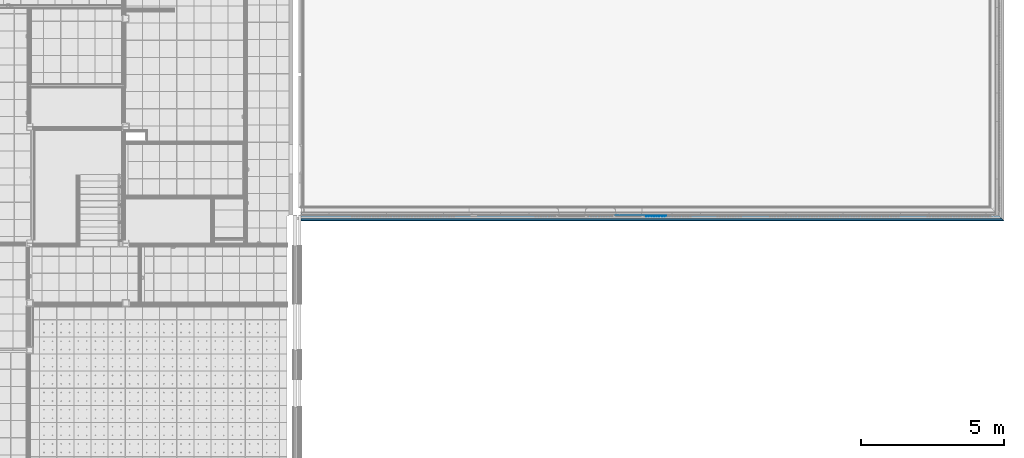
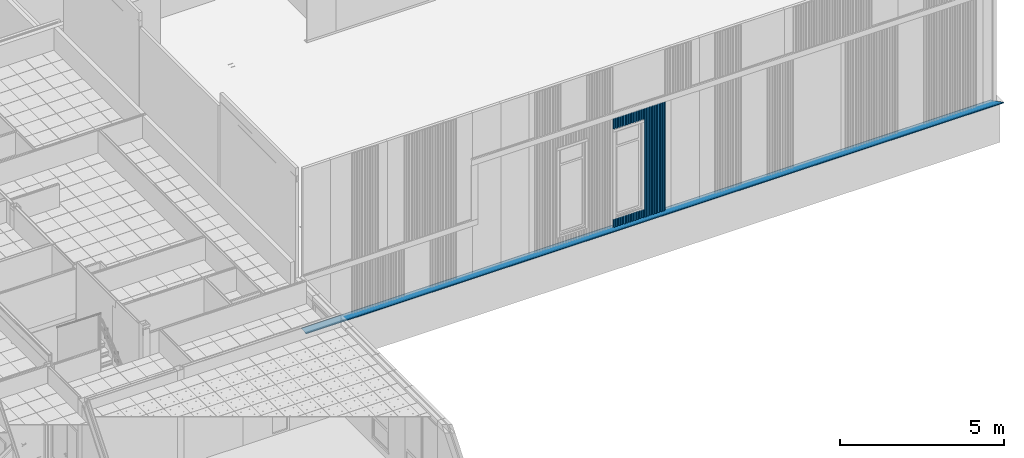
# One storey, part 92 of 338: 6 building element parts, 3 elements without a shape of their own.
"""IFC2X3 building model written with IfcOpenShell, lengths in millimetres."""

from ifc_helpers import new_model, entity, si_unit, converted_unit, derived_unit, money_unit, direction, frame, origin_with_axes, place, context, subcontext, project, spatial, faceted_brep, material, type_object, element, aggregate, save


model = new_model("IFC2X3")

# Units and contexts
model_context = context("Model", 3, precision=0.01, world=origin_with_axes(), true_north=direction((0.0, 1.0)))
plan_context = context("Plan", 3, precision=0.01, world=origin_with_axes(), true_north=direction((0.0, 1.0)))
body_context = subcontext(model_context, "Body", "Model", "MODEL_VIEW")
ifc_project = project(units=[si_unit("LENGTHUNIT", "METRE", prefix="MILLI"), si_unit("AREAUNIT", "SQUARE_METRE"), si_unit("VOLUMEUNIT", "CUBIC_METRE"), converted_unit("PLANEANGLEUNIT", "DEGREE", entity("IfcPlaneAngleMeasure", 0.0174532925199), si_unit("PLANEANGLEUNIT", "RADIAN"), dimensions=[0, 0, 0, 0, 0, 0, 0]), money_unit("EUR"), converted_unit("TIMEUNIT", "Year", entity("IfcTimeMeasure", 31556926.0), si_unit("TIMEUNIT", "SECOND"), dimensions=[0, 0, 1, 0, 0, 0, 0]), si_unit("MASSUNIT", "GRAM", prefix="KILO"), si_unit("THERMODYNAMICTEMPERATUREUNIT", "DEGREE_CELSIUS"), si_unit("LUMINOUSINTENSITYUNIT", "LUMEN"), si_unit("ENERGYUNIT", "JOULE", prefix="MEGA"), derived_unit("THERMALCONDUCTANCEUNIT", [(si_unit("POWERUNIT", "WATT"), 1), (si_unit("LENGTHUNIT", "METRE"), -1), (si_unit("THERMODYNAMICTEMPERATUREUNIT", "KELVIN"), -1)]), derived_unit("SPECIFICHEATCAPACITYUNIT", [(si_unit("ENERGYUNIT", "JOULE"), 1), (si_unit("MASSUNIT", "GRAM", prefix="KILO"), -1), (si_unit("THERMODYNAMICTEMPERATUREUNIT", "KELVIN"), -1)]), derived_unit("MASSDENSITYUNIT", [(si_unit("MASSUNIT", "GRAM", prefix="KILO"), 1), (si_unit("VOLUMEUNIT", "CUBIC_METRE"), -1)])], contexts=[model_context, plan_context])

# Site, building, storey
site_placement = place(None, origin_with_axes())
site = spatial("IfcSite", under=ifc_project, at=site_placement, Name="Fortuinstraat Woensdrecht", CompositionType="ELEMENT")
building_placement = place(site_placement, origin_with_axes())
building = spatial("IfcBuilding", under=site, at=building_placement, Name="IKC Fortuna", CompositionType="ELEMENT")
storey_placement = place(building_placement, origin_with_axes())
storey = spatial("IfcBuildingStorey", under=building, at=storey_placement, Name="00 begane grond", CompositionType="ELEMENT", Elevation=0.0)

# Beam, building element parts
beam_type = type_object("IfcBeamType", Name="41 Waterslag SW - MW 290 x 65", PredefinedType="BEAM")
beam_placement = place(storey_placement, frame((35113.4270571, 20996.2966283, 1018.9295501), z_axis=(0.0, 0.0, 1.0), x_axis=(0.0, -1.0, 0.0)))
beam = element("IfcBeam", 1, at=beam_placement, inside=storey, type_object=beam_type, Name="28_Balk_UNP203", ObjectType="BEAM")
ifc_material = material(Name="Metaal - Aluminium")
building_element_part_1_placement = place(beam_placement, origin_with_axes())
building_element_part_1 = element("IfcBuildingElementPart", 2, at=building_element_part_1_placement, material=ifc_material, Name="Metaal - Aluminium", context=body_context, shape_type="Brep", body=[
    faceted_brep([(269.997199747, 0.0, -65.0443041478), (289.997195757, 0.0, -65.0514212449), (290.001988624, 0.0, -38.1142266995), (0.996409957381, 0.0, -20.1802948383), (0.99999998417, 0.0, -0.0033806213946), (2.18811635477e-08, 0.0, -0.00320269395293), (2.18811635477e-08, 0.0, -21.1203871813), (289.001821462, 0.0, -39.0540858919), (288.997373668, 0.0, -64.0514212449), (269.997377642, 0.0, -64.0444820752), (269.997199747, 24589.9971998, -65.0443041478), (289.997195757, 24609.9971958, -65.0514212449), (290.001988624, 24610.0019887, -38.1142266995), (0.996409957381, 24320.99641, -20.1802948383), (0.999999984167, 24321.0, -0.0033806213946), (2.21973550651e-08, 24320.0000001, -0.00320269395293), (2.21973550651e-08, 24140.0000001, -0.00320269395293), (3.01980662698e-10, 23216.9707392, -0.00320269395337), (3.01980662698e-10, 23134.9310915, -0.00320269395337), (2.214406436e-08, 18260.0000001, -0.00320269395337), (2.21405116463e-08, 18080.0000001, -0.00320269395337), (2.20872209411e-08, 12110.0000001, -0.00320269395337), (2.20872209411e-08, 11930.0000001, -0.00320269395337), (2.18776108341e-08, 11010.0000001, -0.00320269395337), (2.18776108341e-08, 10950.0000001, -0.00320269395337), (2.1866952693e-08, 10005.0000001, -0.00320269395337), (2.1866952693e-08, 9945.00000006, -0.00320269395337), (2.18598472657e-08, 9025.03439854, -0.00320269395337), (2.18598472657e-08, 8965.03439854, -0.00320269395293), (2.19344542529e-08, 5960.00000006, -0.00320269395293), (2.19344542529e-08, 5780.00000006, -0.00320269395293), (2.18811635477e-08, 66.0000000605, -0.00320269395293), (2.18811635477e-08, 66.0000000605, -21.1203871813), (-0.00375728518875, 5780.00000006, -21.1201540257), (2.19344542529e-08, 5960.00000006, -21.1203871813), (-0.00375728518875, 8965.03439854, -21.1201540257), (2.18598472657e-08, 9025.03439854, -21.1203871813), (-0.00375728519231, 9945.00000006, -21.1201540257), (2.1866952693e-08, 10005.0000001, -21.1203871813), (-0.00375728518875, 10950.0000001, -21.1201540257), (2.18776108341e-08, 11010.0000001, -21.1203871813), (-0.00375728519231, 11930.0000001, -21.1201540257), (2.20872209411e-08, 12110.0000001, -21.1203871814), (-0.00375728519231, 18080.0000001, -21.1201540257), (2.214406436e-08, 18260.0000001, -21.1203871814), (-0.00375728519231, 23154.6229672, -21.1201540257), (-0.00375728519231, 23236.6626149, -21.1201540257), (2.21973550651e-08, 24140.0000001, -21.1203871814), (2.21973550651e-08, 24320.0000001, -21.12038718), (289.001821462, 24609.0018215, -39.0540858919), (288.997373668, 24608.9973737, -64.0514212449), (269.997377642, 24589.9973777, -64.0444820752)], [[[0, 1, 2, 3, 4, 5, 6, 7, 8, 9]], [[1, 0, 10, 11]], [[2, 1, 11, 12]], [[3, 2, 12, 13]], [[4, 3, 13, 14]], [[5, 4, 14, 15, 16, 17, 18, 19, 20, 21, 22, 23, 24, 25, 26, 27, 28, 29, 30, 31]], [[32, 6, 5, 31]], [[7, 6, 32, 33, 34, 35, 36, 37, 38, 39, 40, 41, 42, 43, 44, 45, 46, 47, 48, 49]], [[8, 7, 49, 50]], [[9, 8, 50, 51]], [[0, 9, 51, 10]], [[11, 10, 51, 50, 49, 48, 15, 14, 13, 12]], [[47, 16, 15, 48]], [[17, 16, 47, 46]], [[18, 17, 46, 45]], [[19, 18, 45, 44]], [[20, 19, 44, 43]], [[21, 20, 43, 42]], [[22, 21, 42, 41]], [[23, 22, 41, 40]], [[23, 40, 39, 24]], [[25, 24, 39, 38]], [[26, 25, 38, 37]], [[36, 27, 26, 37]], [[27, 36, 35, 28]], [[34, 29, 28, 35]], [[29, 34, 33, 30]], [[32, 31, 30, 33]]]),
])
building_element_part_2_placement = place(beam_placement, origin_with_axes())
building_element_part_2 = element("IfcBuildingElementPart", 3, at=building_element_part_2_placement, material=ifc_material, Name="Metaal - Aluminium", context=body_context, shape_type="Brep", body=[
    faceted_brep([(287.870165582, 24607.8701656, -62.1067923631), (260.294323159, 24580.2943232, -43.989324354), (260.294323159, 0.0, -43.989324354), (287.870165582, 0.0, -62.1067923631), (287.321068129, 24607.3210682, -62.942550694), (259.995211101, 24579.9952112, -44.989324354), (209.995211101, 24529.9952112, -44.989324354), (209.995211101, 24529.9952112, -43.989324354), (209.995211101, 0.0, -43.989324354), (209.995211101, 0.0, -44.989324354), (259.995211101, 0.0, -44.989324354), (287.321068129, 0.0, -62.942550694)], [[[0, 1, 2, 3]], [[0, 4, 5, 6, 7, 1]], [[1, 7, 8, 2]], [[3, 2, 8, 9, 10, 11]], [[4, 0, 3, 11]], [[5, 4, 11, 10]], [[6, 5, 10, 9]], [[7, 6, 9, 8]]]),
])
aggregate(beam, [building_element_part_1, building_element_part_2])

# Proxy, building element parts
building_element_proxy_type = type_object("IfcBuildingElementProxyType", Name="21 Sandwich custom pyramid 946 x 37", PredefinedType="NOTDEFINED")
proxy_1_placement = place(storey_placement, frame((47894.9270571, 20896.2966283, 1000.0), z_axis=(0.0, 0.0, 1.0), x_axis=(-1.0, 0.0, 0.0)))
proxy_1 = element("IfcBuildingElementProxy", 4, at=proxy_1_placement, inside=storey, type_object=building_element_proxy_type, Name="41_Generieke bekleding & afwerking buiten_sandwich custom pyramid")
building_element_part_3_placement = place(proxy_1_placement, origin_with_axes())
building_element_part_3 = element("IfcBuildingElementPart", 5, at=building_element_part_3_placement, material=ifc_material, Name="Metaal - Aluminium", context=body_context, shape_type="Brep", body=[
    faceted_brep([(0.0, 2.39999686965, 0.0), (0.0, 1.20000548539, 0.0), (0.0, 1.20000548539, 4060.85690076), (0.0, 2.39999686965, 4060.85690076), (16.7470988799, 2.39999686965, 0.0), (52.0000026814, 36.6736482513, 0.0), (88.487191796, 1.20000548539, 0.0), (107.51282048, 1.20000548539, 0.0), (143.999995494, 36.6736482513, 0.0), (180.487184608, 1.20000548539, 0.0), (199.512813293, 1.20000548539, 0.0), (236.000002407, 36.6736482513, 0.0), (272.487191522, 1.20000548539, 0.0), (291.512820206, 1.20000548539, 0.0), (327.99999522, 36.6736482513, 0.0), (364.487184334, 1.20000548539, 0.0), (383.512813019, 1.20000548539, 0.0), (420.000002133, 36.6736482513, 0.0), (456.487191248, 1.20000548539, 0.0), (460.000006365, 1.20000548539, 0.0), (477.23428491, 1.20000548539, 0.0), (485.472879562, 9.20975302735, 0.0), (486.309372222, 8.34935896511, 0.0), (477.721464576, 0.0, 0.0), (455.999997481, 0.0, 0.0), (420.000002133, 35.0000001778, 0.0), (384.000006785, 0.0, 0.0), (364.000004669, 0.0, 0.0), (327.99999522, 35.0000001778, 0.0), (291.999999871, 0.0, 0.0), (271.999997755, 0.0, 0.0), (236.000002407, 35.0000001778, 0.0), (199.999992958, 0.0, 0.0), (180.000004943, 0.0, 0.0), (143.999995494, 35.0000001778, 0.0), (108.000000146, 0.0, 0.0), (87.9999980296, 0.0, 0.0), (52.0000026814, 35.0000001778, 0.0), (17.2342926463, 1.20000548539, 0.0), (17.2342926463, 1.20000548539, 4060.85690076), (52.0000026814, 35.0000001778, 4060.85690076), (87.9999980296, 0.0, 4060.85690076), (108.000000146, 0.0, 4060.85690076), (143.999995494, 35.0000001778, 4060.85690076), (180.000004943, 0.0, 4060.85690076), (199.999992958, 0.0, 4060.85690076), (236.000002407, 35.0000001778, 4060.85690076), (271.999997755, 0.0, 4060.85690076), (291.999999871, 0.0, 4060.85690076), (327.99999522, 35.0000001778, 4060.85690076), (364.000004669, 0.0, 4060.85690076), (384.000006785, 0.0, 4060.85690076), (420.000002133, 35.0000001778, 4060.85690076), (455.999997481, 0.0, 4060.85690076), (477.721464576, 0.0, 4060.85690076), (486.309372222, 8.34935896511, 4060.85690076), (485.472879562, 9.20975302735, 4060.85690076), (477.23428491, 1.20000548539, 4060.85690076), (460.000006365, 1.20000548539, 4060.85690076), (456.487191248, 1.20000548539, 4060.85690076), (420.000002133, 36.6736482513, 4060.85690076), (383.512813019, 1.20000548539, 4060.85690076), (364.487184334, 1.20000548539, 4060.85690076), (327.99999522, 36.6736482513, 4060.85690076), (291.512820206, 1.20000548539, 4060.85690076), (272.487191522, 1.20000548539, 4060.85690076), (236.000002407, 36.6736482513, 4060.85690076), (199.512813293, 1.20000548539, 4060.85690076), (180.487184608, 1.20000548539, 4060.85690076), (143.999995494, 36.6736482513, 4060.85690076), (107.51282048, 1.20000548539, 4060.85690076), (88.487191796, 1.20000548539, 4060.85690076), (52.0000026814, 36.6736482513, 4060.85690076), (16.7470988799, 2.39999686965, 4060.85690076)], [[[0, 1, 2, 3]], [[0, 4, 5, 6, 7, 8, 9, 10, 11, 12, 13, 14, 15, 16, 17, 18, 19, 20, 21, 22, 23, 24, 25, 26, 27, 28, 29, 30, 31, 32, 33, 34, 35, 36, 37, 38, 1]], [[1, 38, 39, 2]], [[3, 2, 39, 40, 41, 42, 43, 44, 45, 46, 47, 48, 49, 50, 51, 52, 53, 54, 55, 56, 57, 58, 59, 60, 61, 62, 63, 64, 65, 66, 67, 68, 69, 70, 71, 72, 73]], [[4, 0, 3, 73]], [[5, 4, 73, 72]], [[6, 5, 72, 71]], [[7, 6, 71, 70]], [[8, 7, 70, 69]], [[9, 8, 69, 68]], [[10, 9, 68, 67]], [[11, 10, 67, 66]], [[12, 11, 66, 65]], [[13, 12, 65, 64]], [[14, 13, 64, 63]], [[15, 14, 63, 62]], [[16, 15, 62, 61]], [[17, 16, 61, 60]], [[18, 17, 60, 59]], [[19, 18, 59, 58]], [[20, 19, 58, 57]], [[21, 20, 57, 56]], [[22, 21, 56, 55]], [[23, 22, 55, 54]], [[24, 23, 54, 53]], [[25, 24, 53, 52]], [[26, 25, 52, 51]], [[27, 26, 51, 50]], [[28, 27, 50, 49]], [[29, 28, 49, 48]], [[30, 29, 48, 47]], [[31, 30, 47, 46]], [[32, 31, 46, 45]], [[33, 32, 45, 44]], [[34, 33, 44, 43]], [[35, 34, 43, 42]], [[36, 35, 42, 41]], [[37, 36, 41, 40]], [[38, 37, 40, 39]]]),
])
building_element_part_4_placement = place(proxy_1_placement, origin_with_axes())
building_element_part_4 = element("IfcBuildingElementPart", 6, at=building_element_part_4_placement, material=ifc_material, Name="Metaal - Aluminium", context=body_context, shape_type="Brep", body=[
    faceted_brep([(788.0, 35.0, 0.0), (788.0, 35.0, 310.6), (761.169633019, 8.9149310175, 310.6), (761.169633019, 8.9149310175, 3655.0), (788.0, 35.0, 3655.0), (788.0, 35.0, 4060.85690076), (752.0, 0.0, 4060.85690076), (752.0, 0.0, 0.0), (824.0, 0.0, 0.0), (824.0, 0.0, 310.6), (761.169633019, 10.5885436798, 310.6), (844.0, 0.0, 310.6), (880.0, 35.0, 310.6), (916.0, 0.0, 310.6), (937.721470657, 0.0, 310.6), (946.309378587, 8.34935493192, 310.6), (945.472884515, 9.20974883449, 310.6), (937.234285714, 1.2, 310.6), (916.487184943, 1.2, 310.6), (880.0, 36.6736520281, 310.6), (843.512815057, 1.2, 310.6), (824.487184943, 1.2, 310.6), (788.0, 36.6736520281, 310.6), (761.169633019, 10.5885436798, 3655.0), (824.0, 0.0, 3655.0), (788.0, 36.6736520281, 3655.0), (824.487184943, 1.2, 3655.0), (843.512815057, 1.2, 3655.0), (880.0, 36.6736520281, 3655.0), (916.487184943, 1.2, 3655.0), (937.234285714, 1.2, 3655.0), (945.472884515, 9.20974883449, 3655.0), (946.309378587, 8.34935493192, 3655.0), (937.721470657, 0.0, 3655.0), (916.0, 0.0, 3655.0), (880.0, 35.0, 3655.0), (844.0, 0.0, 3655.0), (824.0, 0.0, 4060.85690076), (476.747100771, 2.4, 4060.85690076), (460.0, 2.4, 4060.85690076), (460.0, 1.2, 4060.85690076), (477.234285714, 1.2, 4060.85690076), (485.472879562, 9.20975302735, 4060.85690076), (512.0, 35.0, 4060.85690076), (548.0, 0.0, 4060.85690076), (568.0, 0.0, 4060.85690076), (604.0, 35.0, 4060.85690076), (640.0, 0.0, 4060.85690076), (660.0, 0.0, 4060.85690076), (696.0, 35.0, 4060.85690076), (732.0, 0.0, 4060.85690076), (844.0, 0.0, 4060.85690076), (880.0, 35.0, 4060.85690076), (916.0, 0.0, 4060.85690076), (937.721470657, 0.0, 4060.85690076), (946.309378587, 8.34935493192, 4060.85690076), (945.472884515, 9.20974883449, 4060.85690076), (937.234285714, 1.2, 4060.85690076), (916.487184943, 1.2, 4060.85690076), (880.0, 36.6736520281, 4060.85690076), (843.512815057, 1.2, 4060.85690076), (824.487184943, 1.2, 4060.85690076), (788.0, 36.6736520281, 4060.85690076), (751.512815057, 1.2, 4060.85690076), (732.487184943, 1.2, 4060.85690076), (696.0, 36.6736520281, 4060.85690076), (659.512815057, 1.2, 4060.85690076), (640.487184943, 1.2, 4060.85690076), (604.0, 36.6736520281, 4060.85690076), (567.512815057, 1.2, 4060.85690076), (548.487184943, 1.2, 4060.85690076), (512.0, 36.6736520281, 4060.85690076), (732.0, 0.0, 0.0), (485.472879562, 9.20975302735, 0.0), (477.234285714, 1.2, 0.0), (460.0, 1.2, 0.0), (460.0, 2.4, 0.0), (476.747100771, 2.4, 0.0), (512.0, 36.6736520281, 0.0), (548.487184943, 1.2, 0.0), (567.512815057, 1.2, 0.0), (604.0, 36.6736520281, 0.0), (640.487184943, 1.2, 0.0), (659.512815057, 1.2, 0.0), (696.0, 36.6736520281, 0.0), (732.487184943, 1.2, 0.0), (751.512815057, 1.2, 0.0), (788.0, 36.6736520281, 0.0), (824.487184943, 1.2, 0.0), (843.512815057, 1.2, 0.0), (880.0, 36.6736520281, 0.0), (916.487184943, 1.2, 0.0), (937.234285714, 1.2, 0.0), (945.472884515, 9.20974883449, 0.0), (946.309378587, 8.34935493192, 0.0), (937.721470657, 0.0, 0.0), (916.0, 0.0, 0.0), (880.0, 35.0, 0.0), (844.0, 0.0, 0.0), (696.0, 35.0, 0.0), (660.0, 0.0, 0.0), (640.0, 0.0, 0.0), (604.0, 35.0, 0.0), (568.0, 0.0, 0.0), (548.0, 0.0, 0.0), (512.0, 35.0, 0.0)], [[[0, 1, 2, 3, 4, 5, 6, 7]], [[8, 9, 1, 0]], [[10, 2, 1, 9, 11, 12, 13, 14, 15, 16, 17, 18, 19, 20, 21, 22]], [[23, 3, 2, 10]], [[24, 4, 3, 23, 25, 26, 27, 28, 29, 30, 31, 32, 33, 34, 35, 36]], [[5, 4, 24, 37]], [[38, 39, 40, 41, 42, 43, 44, 45, 46, 47, 48, 49, 50, 6, 5, 37, 51, 52, 53, 54, 55, 56, 57, 58, 59, 60, 61, 62, 63, 64, 65, 66, 67, 68, 69, 70, 71]], [[6, 50, 72, 7]], [[73, 74, 75, 76, 77, 78, 79, 80, 81, 82, 83, 84, 85, 86, 87, 88, 89, 90, 91, 92, 93, 94, 95, 96, 97, 98, 8, 0, 7, 72, 99, 100, 101, 102, 103, 104, 105]], [[98, 11, 9, 8]], [[97, 12, 11, 98]], [[96, 13, 12, 97]], [[95, 14, 13, 96]], [[94, 15, 14, 95]], [[93, 16, 15, 94]], [[92, 17, 16, 93]], [[91, 18, 17, 92]], [[90, 19, 18, 91]], [[89, 20, 19, 90]], [[88, 21, 20, 89]], [[87, 22, 21, 88]], [[23, 10, 22, 87, 86, 63, 62, 25]], [[61, 26, 25, 62]], [[60, 27, 26, 61]], [[59, 28, 27, 60]], [[58, 29, 28, 59]], [[57, 30, 29, 58]], [[56, 31, 30, 57]], [[55, 32, 31, 56]], [[54, 33, 32, 55]], [[53, 34, 33, 54]], [[52, 35, 34, 53]], [[51, 36, 35, 52]], [[37, 24, 36, 51]], [[39, 38, 77, 76]], [[40, 39, 76, 75]], [[41, 40, 75, 74]], [[42, 41, 74, 73]], [[43, 42, 73, 105]], [[44, 43, 105, 104]], [[45, 44, 104, 103]], [[46, 45, 103, 102]], [[47, 46, 102, 101]], [[48, 47, 101, 100]], [[49, 48, 100, 99]], [[50, 49, 99, 72]], [[64, 63, 86, 85]], [[65, 64, 85, 84]], [[66, 65, 84, 83]], [[67, 66, 83, 82]], [[68, 67, 82, 81]], [[69, 68, 81, 80]], [[70, 69, 80, 79]], [[71, 70, 79, 78]], [[38, 71, 78, 77]]]),
])
aggregate(proxy_1, [building_element_part_3, building_element_part_4])

proxy_2_placement = place(storey_placement, frame((46974.9270571, 20896.2966283, 1000.0), z_axis=(0.0, 0.0, 1.0), x_axis=(-1.0, 0.0, 0.0)))
proxy_2 = element("IfcBuildingElementProxy", 7, at=proxy_2_placement, inside=storey, type_object=building_element_proxy_type, Name="41_Generieke bekleding & afwerking buiten_sandwich custom pyramid")
building_element_part_5_placement = place(proxy_2_placement, origin_with_axes())
building_element_part_5 = element("IfcBuildingElementPart", 8, at=building_element_part_5_placement, material=ifc_material, Name="Metaal - Aluminium", context=body_context, shape_type="Brep", body=[
    faceted_brep([(17.2342926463, 1.20000548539, 0.0), (17.2342926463, 1.20000548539, 310.6), (0.0, 1.20000548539, 310.6), (0.0, 1.20000548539, 0.0), (52.0000026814, 35.0000001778, 0.0), (52.0000026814, 35.0000001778, 310.6), (16.7470988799, 2.39999686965, 310.6), (0.0, 2.39999686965, 310.6), (87.9999980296, 0.0, 310.6), (108.000000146, 0.0, 310.6), (143.999995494, 35.0000001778, 310.6), (180.000004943, 0.0, 310.6), (199.999992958, 0.0, 310.6), (236.000002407, 35.0000001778, 310.6), (271.999997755, 0.0, 310.6), (291.999999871, 0.0, 310.6), (327.99999522, 35.0000001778, 310.6), (364.000004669, 0.0, 310.6), (384.000006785, 0.0, 310.6), (420.000002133, 35.0000001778, 310.6), (455.999997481, 0.0, 310.6), (477.721464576, 0.0, 310.6), (486.309372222, 8.34935896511, 310.6), (485.472879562, 9.20975302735, 310.6), (477.23428491, 1.20000548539, 310.6), (460.000006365, 1.20000548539, 310.6), (456.487191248, 1.20000548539, 310.6), (420.000002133, 36.6736482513, 310.6), (383.512813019, 1.20000548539, 310.6), (364.487184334, 1.20000548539, 310.6), (327.99999522, 36.6736482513, 310.6), (291.512820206, 1.20000548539, 310.6), (272.487191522, 1.20000548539, 310.6), (236.000002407, 36.6736482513, 310.6), (199.512813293, 1.20000548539, 310.6), (180.487184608, 1.20000548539, 310.6), (143.999995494, 36.6736482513, 310.6), (107.51282048, 1.20000548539, 310.6), (88.487191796, 1.20000548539, 310.6), (52.0000026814, 36.6736482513, 310.6), (0.0, 2.39999686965, 0.0), (16.7470988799, 2.39999686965, 0.0), (52.0000026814, 36.6736482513, 0.0), (88.487191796, 1.20000548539, 0.0), (107.51282048, 1.20000548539, 0.0), (143.999995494, 36.6736482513, 0.0), (180.487184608, 1.20000548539, 0.0), (199.512813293, 1.20000548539, 0.0), (236.000002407, 36.6736482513, 0.0), (272.487191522, 1.20000548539, 0.0), (291.512820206, 1.20000548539, 0.0), (327.99999522, 36.6736482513, 0.0), (364.487184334, 1.20000548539, 0.0), (383.512813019, 1.20000548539, 0.0), (420.000002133, 36.6736482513, 0.0), (456.487191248, 1.20000548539, 0.0), (460.000006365, 1.20000548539, 0.0), (477.23428491, 1.20000548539, 0.0), (485.472879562, 9.20975302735, 0.0), (486.309372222, 8.34935896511, 0.0), (477.721464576, 0.0, 0.0), (455.999997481, 0.0, 0.0), (420.000002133, 35.0000001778, 0.0), (384.000006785, 0.0, 0.0), (364.000004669, 0.0, 0.0), (327.99999522, 35.0000001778, 0.0), (291.999999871, 0.0, 0.0), (271.999997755, 0.0, 0.0), (236.000002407, 35.0000001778, 0.0), (199.999992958, 0.0, 0.0), (180.000004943, 0.0, 0.0), (143.999995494, 35.0000001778, 0.0), (108.000000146, 0.0, 0.0), (87.9999980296, 0.0, 0.0)], [[[0, 1, 2, 3]], [[4, 5, 1, 0]], [[6, 7, 2, 1, 5, 8, 9, 10, 11, 12, 13, 14, 15, 16, 17, 18, 19, 20, 21, 22, 23, 24, 25, 26, 27, 28, 29, 30, 31, 32, 33, 34, 35, 36, 37, 38, 39]], [[3, 2, 7, 40]], [[0, 3, 40, 41, 42, 43, 44, 45, 46, 47, 48, 49, 50, 51, 52, 53, 54, 55, 56, 57, 58, 59, 60, 61, 62, 63, 64, 65, 66, 67, 68, 69, 70, 71, 72, 73, 4]], [[73, 8, 5, 4]], [[40, 7, 6, 41]], [[72, 9, 8, 73]], [[71, 10, 9, 72]], [[70, 11, 10, 71]], [[69, 12, 11, 70]], [[68, 13, 12, 69]], [[67, 14, 13, 68]], [[66, 15, 14, 67]], [[65, 16, 15, 66]], [[64, 17, 16, 65]], [[63, 18, 17, 64]], [[62, 19, 18, 63]], [[61, 20, 19, 62]], [[60, 21, 20, 61]], [[59, 22, 21, 60]], [[58, 23, 22, 59]], [[57, 24, 23, 58]], [[56, 25, 24, 57]], [[55, 26, 25, 56]], [[54, 27, 26, 55]], [[53, 28, 27, 54]], [[52, 29, 28, 53]], [[51, 30, 29, 52]], [[50, 31, 30, 51]], [[49, 32, 31, 50]], [[48, 33, 32, 49]], [[47, 34, 33, 48]], [[46, 35, 34, 47]], [[45, 36, 35, 46]], [[44, 37, 36, 45]], [[43, 38, 37, 44]], [[42, 39, 38, 43]], [[41, 6, 39, 42]]]),
    faceted_brep([(0.0, 2.39999686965, 4060.85690076), (0.0, 2.39999686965, 3655.0), (0.0, 1.20000548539, 3655.0), (0.0, 1.20000548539, 4060.85690076), (16.7470988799, 2.39999686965, 4060.85690076), (16.7470988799, 2.39999686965, 3655.0), (52.0000026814, 35.0000001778, 3655.0), (17.2342926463, 1.20000548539, 3655.0), (52.0000026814, 36.6736482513, 3655.0), (88.487191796, 1.20000548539, 3655.0), (107.51282048, 1.20000548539, 3655.0), (143.999995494, 36.6736482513, 3655.0), (180.487184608, 1.20000548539, 3655.0), (199.512813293, 1.20000548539, 3655.0), (236.000002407, 36.6736482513, 3655.0), (272.487191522, 1.20000548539, 3655.0), (291.512820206, 1.20000548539, 3655.0), (327.99999522, 36.6736482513, 3655.0), (364.487184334, 1.20000548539, 3655.0), (383.512813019, 1.20000548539, 3655.0), (420.000002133, 36.6736482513, 3655.0), (456.487191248, 1.20000548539, 3655.0), (460.000006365, 1.20000548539, 3655.0), (477.23428491, 1.20000548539, 3655.0), (485.472879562, 9.20975302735, 3655.0), (486.309372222, 8.34935896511, 3655.0), (477.721464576, 0.0, 3655.0), (455.999997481, 0.0, 3655.0), (420.000002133, 35.0000001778, 3655.0), (384.000006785, 0.0, 3655.0), (364.000004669, 0.0, 3655.0), (327.99999522, 35.0000001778, 3655.0), (291.999999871, 0.0, 3655.0), (271.999997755, 0.0, 3655.0), (236.000002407, 35.0000001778, 3655.0), (199.999992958, 0.0, 3655.0), (180.000004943, 0.0, 3655.0), (143.999995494, 35.0000001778, 3655.0), (108.000000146, 0.0, 3655.0), (87.9999980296, 0.0, 3655.0), (17.2342926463, 1.20000548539, 4060.85690076), (52.0000026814, 36.6736482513, 4060.85690076), (52.0000026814, 35.0000001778, 4060.85690076), (87.9999980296, 0.0, 4060.85690076), (108.000000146, 0.0, 4060.85690076), (143.999995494, 35.0000001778, 4060.85690076), (180.000004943, 0.0, 4060.85690076), (199.999992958, 0.0, 4060.85690076), (236.000002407, 35.0000001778, 4060.85690076), (271.999997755, 0.0, 4060.85690076), (291.999999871, 0.0, 4060.85690076), (327.99999522, 35.0000001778, 4060.85690076), (364.000004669, 0.0, 4060.85690076), (384.000006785, 0.0, 4060.85690076), (420.000002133, 35.0000001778, 4060.85690076), (455.999997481, 0.0, 4060.85690076), (477.721464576, 0.0, 4060.85690076), (486.309372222, 8.34935896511, 4060.85690076), (485.472879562, 9.20975302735, 4060.85690076), (477.23428491, 1.20000548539, 4060.85690076), (460.000006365, 1.20000548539, 4060.85690076), (456.487191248, 1.20000548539, 4060.85690076), (420.000002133, 36.6736482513, 4060.85690076), (383.512813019, 1.20000548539, 4060.85690076), (364.487184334, 1.20000548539, 4060.85690076), (327.99999522, 36.6736482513, 4060.85690076), (291.512820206, 1.20000548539, 4060.85690076), (272.487191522, 1.20000548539, 4060.85690076), (236.000002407, 36.6736482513, 4060.85690076), (199.512813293, 1.20000548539, 4060.85690076), (180.487184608, 1.20000548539, 4060.85690076), (143.999995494, 36.6736482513, 4060.85690076), (107.51282048, 1.20000548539, 4060.85690076), (88.487191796, 1.20000548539, 4060.85690076)], [[[0, 1, 2, 3]], [[4, 5, 1, 0]], [[6, 7, 2, 1, 5, 8, 9, 10, 11, 12, 13, 14, 15, 16, 17, 18, 19, 20, 21, 22, 23, 24, 25, 26, 27, 28, 29, 30, 31, 32, 33, 34, 35, 36, 37, 38, 39]], [[3, 2, 7, 40]], [[41, 4, 0, 3, 40, 42, 43, 44, 45, 46, 47, 48, 49, 50, 51, 52, 53, 54, 55, 56, 57, 58, 59, 60, 61, 62, 63, 64, 65, 66, 67, 68, 69, 70, 71, 72, 73]], [[41, 8, 5, 4]], [[40, 7, 6, 42]], [[73, 9, 8, 41]], [[72, 10, 9, 73]], [[71, 11, 10, 72]], [[70, 12, 11, 71]], [[69, 13, 12, 70]], [[68, 14, 13, 69]], [[67, 15, 14, 68]], [[66, 16, 15, 67]], [[65, 17, 16, 66]], [[64, 18, 17, 65]], [[63, 19, 18, 64]], [[62, 20, 19, 63]], [[61, 21, 20, 62]], [[60, 22, 21, 61]], [[59, 23, 22, 60]], [[58, 24, 23, 59]], [[57, 25, 24, 58]], [[56, 26, 25, 57]], [[55, 27, 26, 56]], [[54, 28, 27, 55]], [[53, 29, 28, 54]], [[52, 30, 29, 53]], [[51, 31, 30, 52]], [[50, 32, 31, 51]], [[49, 33, 32, 50]], [[48, 34, 33, 49]], [[47, 35, 34, 48]], [[46, 36, 35, 47]], [[45, 37, 36, 46]], [[44, 38, 37, 45]], [[43, 39, 38, 44]], [[42, 6, 39, 43]]]),
])
building_element_part_6_placement = place(proxy_2_placement, origin_with_axes())
building_element_part_6 = element("IfcBuildingElementPart", 9, at=building_element_part_6_placement, material=ifc_material, Name="Metaal - Aluminium", context=body_context, shape_type="Brep", body=[
    faceted_brep([(460.0, 2.4, 4060.85690076), (460.0, 2.4, 3655.0), (460.0, 1.2, 3655.0), (460.0, 1.2, 4060.85690076), (476.747100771, 2.4, 4060.85690076), (476.747100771, 2.4, 3655.0), (485.472879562, 9.20975302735, 3655.0), (477.234285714, 1.2, 3655.0), (512.0, 36.6736520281, 3655.0), (548.487184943, 1.2, 3655.0), (567.512815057, 1.2, 3655.0), (604.0, 36.6736520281, 3655.0), (640.487184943, 1.2, 3655.0), (659.512815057, 1.2, 3655.0), (696.0, 36.6736520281, 3655.0), (732.487184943, 1.2, 3655.0), (751.512815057, 1.2, 3655.0), (788.0, 36.6736520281, 3655.0), (824.487184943, 1.2, 3655.0), (843.512815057, 1.2, 3655.0), (880.0, 36.6736520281, 3655.0), (916.487184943, 1.2, 3655.0), (937.234285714, 1.2, 3655.0), (941.169633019, 5.02602739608, 3655.0), (941.169633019, 3.35238384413, 3655.0), (937.721470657, 0.0, 3655.0), (916.0, 0.0, 3655.0), (880.0, 35.0, 3655.0), (844.0, 0.0, 3655.0), (824.0, 0.0, 3655.0), (788.0, 35.0, 3655.0), (752.0, 0.0, 3655.0), (732.0, 0.0, 3655.0), (696.0, 35.0, 3655.0), (660.0, 0.0, 3655.0), (640.0, 0.0, 3655.0), (604.0, 35.0, 3655.0), (568.0, 0.0, 3655.0), (548.0, 0.0, 3655.0), (512.0, 35.0, 3655.0), (477.234285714, 1.2, 4060.85690076), (485.472879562, 9.20975302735, 4060.85690076), (512.0, 35.0, 4060.85690076), (548.0, 0.0, 4060.85690076), (568.0, 0.0, 4060.85690076), (604.0, 35.0, 4060.85690076), (640.0, 0.0, 4060.85690076), (660.0, 0.0, 4060.85690076), (696.0, 35.0, 4060.85690076), (732.0, 0.0, 4060.85690076), (752.0, 0.0, 4060.85690076), (788.0, 35.0, 4060.85690076), (824.0, 0.0, 4060.85690076), (844.0, 0.0, 4060.85690076), (880.0, 35.0, 4060.85690076), (916.0, 0.0, 4060.85690076), (937.721470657, 0.0, 4060.85690076), (946.309378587, 8.34935493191, 4060.85690076), (945.472884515, 9.20974883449, 4060.85690076), (937.234285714, 1.2, 4060.85690076), (916.487184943, 1.2, 4060.85690076), (880.0, 36.6736520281, 4060.85690076), (843.512815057, 1.2, 4060.85690076), (824.487184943, 1.2, 4060.85690076), (788.0, 36.6736520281, 4060.85690076), (751.512815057, 1.2, 4060.85690076), (732.487184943, 1.2, 4060.85690076), (696.0, 36.6736520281, 4060.85690076), (659.512815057, 1.2, 4060.85690076), (640.487184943, 1.2, 4060.85690076), (604.0, 36.6736520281, 4060.85690076), (567.512815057, 1.2, 4060.85690076), (548.487184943, 1.2, 4060.85690076), (512.0, 36.6736520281, 4060.85690076), (941.169633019, 5.02602739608, 310.6), (945.472884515, 9.20974883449, 0.0), (937.234285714, 1.2, 0.0), (937.234285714, 1.2, 310.6), (941.169633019, 3.35238384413, 310.6), (937.721470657, 0.0, 310.6), (937.721470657, 0.0, 0.0), (946.309378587, 8.34935493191, 0.0), (485.472879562, 9.20975302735, 0.0), (477.234285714, 1.2, 0.0), (460.0, 1.2, 0.0), (460.0, 2.4, 0.0), (476.747100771, 2.4, 0.0), (512.0, 36.6736520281, 0.0), (548.487184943, 1.2, 0.0), (567.512815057, 1.2, 0.0), (604.0, 36.6736520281, 0.0), (640.487184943, 1.2, 0.0), (659.512815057, 1.2, 0.0), (696.0, 36.6736520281, 0.0), (732.487184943, 1.2, 0.0), (751.512815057, 1.2, 0.0), (788.0, 36.6736520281, 0.0), (824.487184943, 1.2, 0.0), (843.512815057, 1.2, 0.0), (880.0, 36.6736520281, 0.0), (916.487184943, 1.2, 0.0), (916.0, 0.0, 0.0), (880.0, 35.0, 0.0), (844.0, 0.0, 0.0), (824.0, 0.0, 0.0), (788.0, 35.0, 0.0), (752.0, 0.0, 0.0), (732.0, 0.0, 0.0), (696.0, 35.0, 0.0), (660.0, 0.0, 0.0), (640.0, 0.0, 0.0), (604.0, 35.0, 0.0), (568.0, 0.0, 0.0), (548.0, 0.0, 0.0), (512.0, 35.0, 0.0), (916.487184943, 1.2, 310.6), (476.747100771, 2.4, 310.6), (460.0, 2.4, 310.6), (460.0, 1.2, 310.6), (477.234285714, 1.2, 310.6), (485.472879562, 9.20975302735, 310.6), (512.0, 35.0, 310.6), (548.0, 0.0, 310.6), (568.0, 0.0, 310.6), (604.0, 35.0, 310.6), (640.0, 0.0, 310.6), (660.0, 0.0, 310.6), (696.0, 35.0, 310.6), (732.0, 0.0, 310.6), (752.0, 0.0, 310.6), (788.0, 35.0, 310.6), (824.0, 0.0, 310.6), (844.0, 0.0, 310.6), (880.0, 35.0, 310.6), (916.0, 0.0, 310.6), (880.0, 36.6736520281, 310.6), (843.512815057, 1.2, 310.6), (824.487184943, 1.2, 310.6), (788.0, 36.6736520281, 310.6), (751.512815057, 1.2, 310.6), (732.487184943, 1.2, 310.6), (696.0, 36.6736520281, 310.6), (659.512815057, 1.2, 310.6), (640.487184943, 1.2, 310.6), (604.0, 36.6736520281, 310.6), (567.512815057, 1.2, 310.6), (548.487184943, 1.2, 310.6), (512.0, 36.6736520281, 310.6)], [[[0, 1, 2, 3]], [[4, 5, 1, 0]], [[6, 7, 2, 1, 5, 8, 9, 10, 11, 12, 13, 14, 15, 16, 17, 18, 19, 20, 21, 22, 23, 24, 25, 26, 27, 28, 29, 30, 31, 32, 33, 34, 35, 36, 37, 38, 39]], [[3, 2, 7, 40]], [[4, 0, 3, 40, 41, 42, 43, 44, 45, 46, 47, 48, 49, 50, 51, 52, 53, 54, 55, 56, 57, 58, 59, 60, 61, 62, 63, 64, 65, 66, 67, 68, 69, 70, 71, 72, 73]], [[73, 8, 5, 4]], [[40, 7, 6, 41]], [[72, 9, 8, 73]], [[71, 10, 9, 72]], [[70, 11, 10, 71]], [[69, 12, 11, 70]], [[68, 13, 12, 69]], [[67, 14, 13, 68]], [[66, 15, 14, 67]], [[65, 16, 15, 66]], [[64, 17, 16, 65]], [[63, 18, 17, 64]], [[62, 19, 18, 63]], [[61, 20, 19, 62]], [[60, 21, 20, 61]], [[59, 22, 21, 60]], [[74, 23, 22, 59, 58, 75, 76, 77]], [[74, 78, 24, 23]], [[24, 78, 79, 80, 81, 57, 56, 25]], [[55, 26, 25, 56]], [[54, 27, 26, 55]], [[53, 28, 27, 54]], [[52, 29, 28, 53]], [[51, 30, 29, 52]], [[50, 31, 30, 51]], [[49, 32, 31, 50]], [[48, 33, 32, 49]], [[47, 34, 33, 48]], [[46, 35, 34, 47]], [[45, 36, 35, 46]], [[44, 37, 36, 45]], [[43, 38, 37, 44]], [[42, 39, 38, 43]], [[41, 6, 39, 42]], [[58, 57, 81, 75]], [[82, 83, 84, 85, 86, 87, 88, 89, 90, 91, 92, 93, 94, 95, 96, 97, 98, 99, 100, 76, 75, 81, 80, 101, 102, 103, 104, 105, 106, 107, 108, 109, 110, 111, 112, 113, 114]], [[100, 115, 77, 76]], [[116, 117, 118, 119, 120, 121, 122, 123, 124, 125, 126, 127, 128, 129, 130, 131, 132, 133, 134, 79, 78, 74, 77, 115, 135, 136, 137, 138, 139, 140, 141, 142, 143, 144, 145, 146, 147]], [[80, 79, 134, 101]], [[82, 120, 119, 83]], [[83, 119, 118, 84]], [[84, 118, 117, 85]], [[85, 117, 116, 86]], [[86, 116, 147, 87]], [[87, 147, 146, 88]], [[88, 146, 145, 89]], [[89, 145, 144, 90]], [[90, 144, 143, 91]], [[91, 143, 142, 92]], [[92, 142, 141, 93]], [[93, 141, 140, 94]], [[94, 140, 139, 95]], [[95, 139, 138, 96]], [[96, 138, 137, 97]], [[97, 137, 136, 98]], [[98, 136, 135, 99]], [[99, 135, 115, 100]], [[101, 134, 133, 102]], [[102, 133, 132, 103]], [[103, 132, 131, 104]], [[104, 131, 130, 105]], [[105, 130, 129, 106]], [[106, 129, 128, 107]], [[107, 128, 127, 108]], [[108, 127, 126, 109]], [[109, 126, 125, 110]], [[110, 125, 124, 111]], [[111, 124, 123, 112]], [[112, 123, 122, 113]], [[113, 122, 121, 114]], [[114, 121, 120, 82]]]),
])
aggregate(proxy_2, [building_element_part_5, building_element_part_6])

save(model, "model.ifc")
